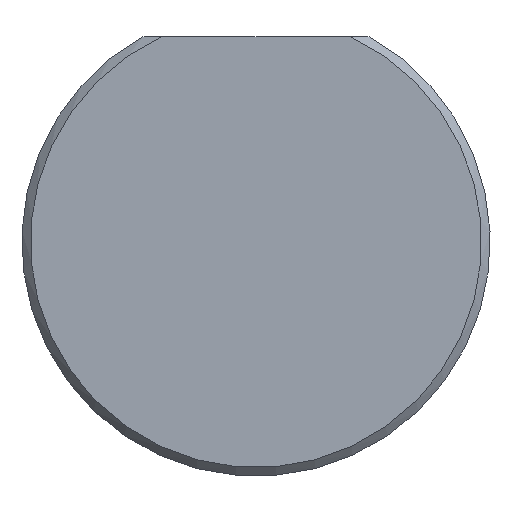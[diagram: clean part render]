
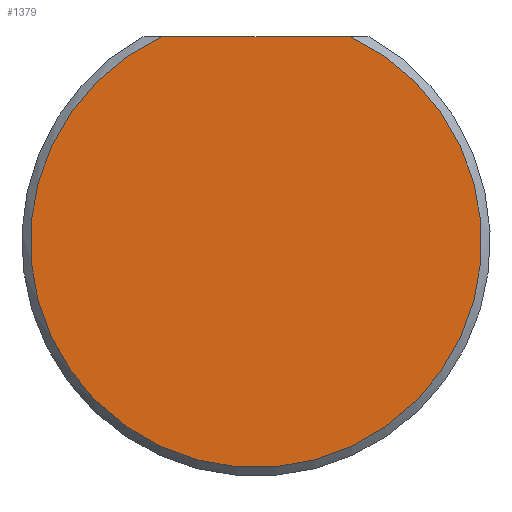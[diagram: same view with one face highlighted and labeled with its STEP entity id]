
A CAD part, front view. The second image highlights one B-rep face of the part: STEP entity #1379.
In plain terms, the highlighted planar face has unit normal (0, -1, 0).
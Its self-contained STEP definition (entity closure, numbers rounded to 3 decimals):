
#27 = DIRECTION ( 'NONE',  ( 0., 1., 0. ) ) ;
#56 = DIRECTION ( 'NONE',  ( -1., 0., 0. ) ) ;
#120 = CARTESIAN_POINT ( 'NONE',  ( 0., 0., 6. ) ) ;
#398 = AXIS2_PLACEMENT_3D ( 'NONE', #2079, #27, #1359 ) ;
#457 = CARTESIAN_POINT ( 'NONE',  ( 2.75, 0., 6. ) ) ;
#500 = VERTEX_POINT ( 'NONE', #457 ) ;
#729 = CIRCLE ( 'NONE', #1114, 6.6 ) ;
#822 = CARTESIAN_POINT ( 'NONE',  ( -2.75, 0., 6. ) ) ;
#851 = EDGE_CURVE ( 'NONE', #2819, #500, #729, .T. ) ;
#891 = ORIENTED_EDGE ( 'NONE', *, *, #851, .T. ) ;
#1114 = AXIS2_PLACEMENT_3D ( 'NONE', #2352, #2872, #1653 ) ;
#1253 = LINE ( 'NONE', #120, #2717 ) ;
#1359 = DIRECTION ( 'NONE',  ( 0., 0., 1. ) ) ;
#1379 = ADVANCED_FACE ( 'NONE', ( #1825 ), #2738, .F. ) ;
#1549 = EDGE_LOOP ( 'NONE', ( #2545, #891 ) ) ;
#1653 = DIRECTION ( 'NONE',  ( 0., 0., 1. ) ) ;
#1825 = FACE_OUTER_BOUND ( 'NONE', #1549, .T. ) ;
#2079 = CARTESIAN_POINT ( 'NONE',  ( 0., 0., 0. ) ) ;
#2219 = EDGE_CURVE ( 'NONE', #500, #2819, #1253, .T. ) ;
#2352 = CARTESIAN_POINT ( 'NONE',  ( 0., 0., 0. ) ) ;
#2545 = ORIENTED_EDGE ( 'NONE', *, *, #2219, .T. ) ;
#2717 = VECTOR ( 'NONE', #56, 1000. ) ;
#2738 = PLANE ( 'NONE',  #398 ) ;
#2819 = VERTEX_POINT ( 'NONE', #822 ) ;
#2872 = DIRECTION ( 'NONE',  ( 0., -1., 0. ) ) ;
